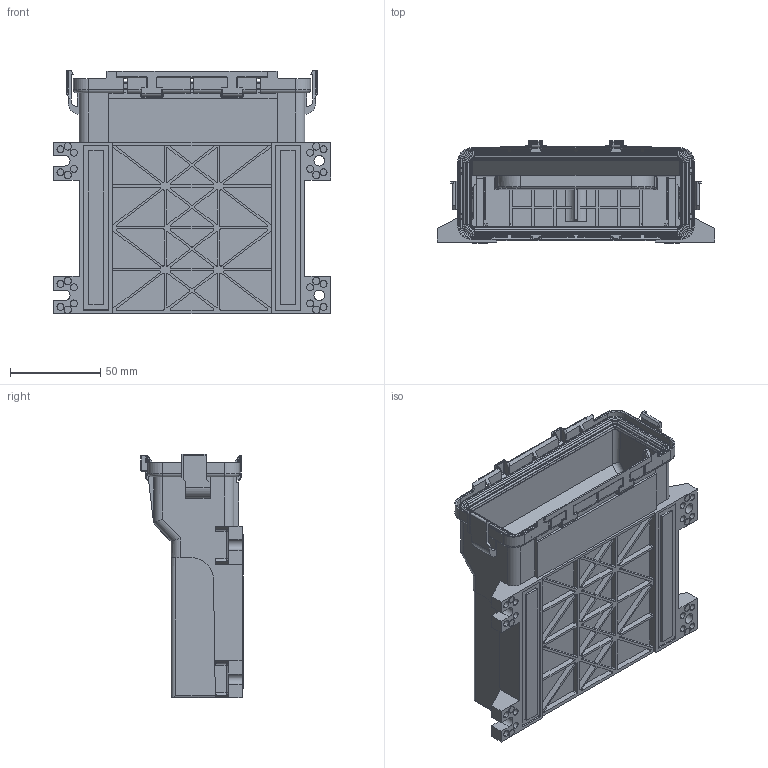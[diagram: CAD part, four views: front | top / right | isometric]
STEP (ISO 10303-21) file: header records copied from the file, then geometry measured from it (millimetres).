
FILE_DESCRIPTION((''),'2;1');
FILE_NAME('5810130041_ICE30_ASM','2008-07-08T',('eake'),(''),'PRO/ENGINEER BY PARAMETRIC TECHNOLOGY CORPORATION, 2005451','PRO/ENGINEER BY PARAMETRIC TECHNOLOGY CORPORATION, 2005451','');
FILE_SCHEMA(('CONFIG_CONTROL_DESIGN'));
Length unit declared in the file: inch
Products named in the file (5): 4828770160_ICE30; 463089918X_SEAL30; 4630899190_HSINK_EX; 5810130041_EPOXY; 5810130041_ICE30_ASM
Assembly tree (6 placements, depth 2):
  5810130041_ICE30_ASM
    4828770160_ICE30
    463089918X_SEAL30
    4630899190_HSINK_EX  x2
    5810130041_EPOXY  x2
Bounding box: 153.16 x 56.52 x 134.62 mm (x, y, z)
Volume: 179559.7 mm3; surface area: 148840.1 mm2
Topology: 6 solids, 6 shells, 2154 faces, 5310 edges, 3262 vertices
Faces by surface type: plane 944, cylinder 797, torus 182, bspline 72, extrusion 72, sphere 67, cone 20
Entity records: 72226 total; most frequent: CARTESIAN_POINT 22168, DIRECTION 10447, ORIENTED_EDGE 10392, EDGE_CURVE 5196, AXIS2_PLACEMENT_3D 3621, VECTOR 3205, VERTEX_POINT 3186, LINE 3133
